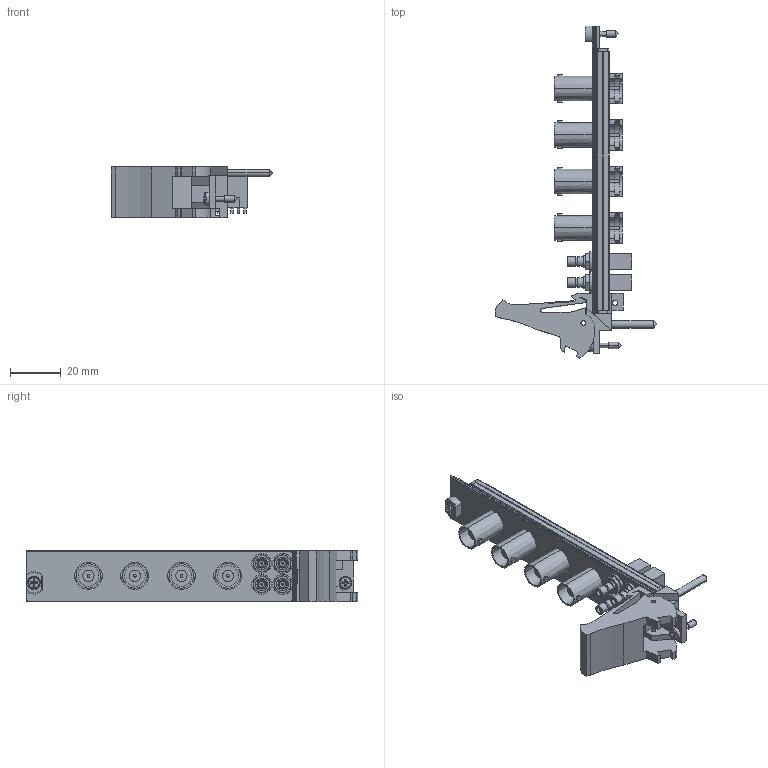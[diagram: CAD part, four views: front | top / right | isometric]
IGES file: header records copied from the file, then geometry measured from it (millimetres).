
Start section:  PTC IGES file: cu_pxie-5160_4ch.igs
Global section: file name: cu_pxie-5160_4ch.igs; native system: Pro/ENGINEER by Parametric Technology Corporation; preprocessor: 2011490; author: jjorden; organization: Unknown; date: 20130326.142801; units: inch
Bounding box: 63.53 x 130.5 x 20.31 mm (x, y, z)
Surface area: 25404.6 mm2 (no closed solid volume)
Topology: 0 solids, 0 shells, 1025 faces, 5422 edges, 5414 vertices
Faces by surface type: bspline 661, revolution 364
